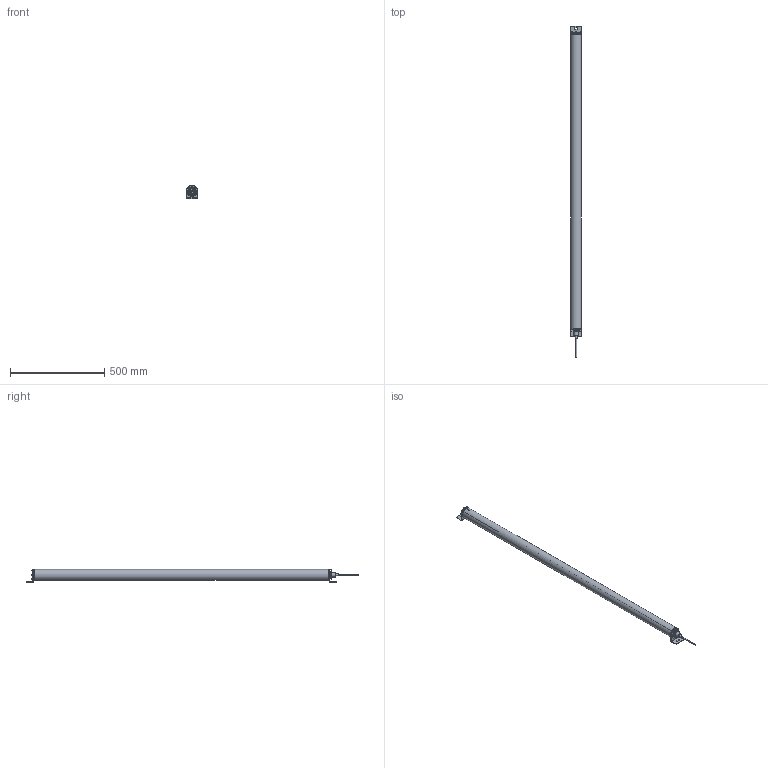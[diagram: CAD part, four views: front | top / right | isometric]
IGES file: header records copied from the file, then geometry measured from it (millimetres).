
Global section: file name: MG-60-PYLON_3D_SMB_PT; native system: AutoCAD 2018 - English; preprocessor: Autodesk Translation Framework DWG producer (atf_dwg_producer); organization: unknown; date: 20180612.090124; units: inch
Bounding box: 57.29 x 1763.84 x 69.85 mm (x, y, z)
Volume: 1420014.2 mm3; surface area: 1153751 mm2
Topology: 32 solids, 32 shells, 779 faces, 1846 edges, 1187 vertices
Faces by surface type: bspline 779
